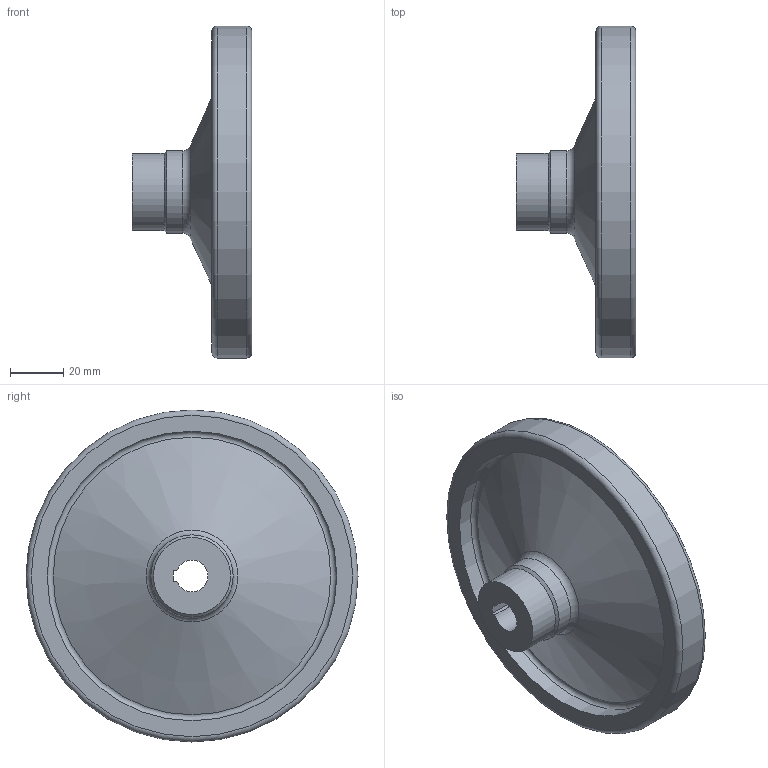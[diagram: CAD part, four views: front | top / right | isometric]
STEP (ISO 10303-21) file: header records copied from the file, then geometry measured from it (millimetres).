
FILE_DESCRIPTION( ( 'STEP AP203' ), '1' );
FILE_NAME( 'C:/Temp/Ganter_Step_05_03_2020/data/1_3/gn_321_5/gn_321_5_a/gn_321_5_a_zi/Safety handwheel GN 321.5-125-K12-A-ZI.stp', '2020-03-05T10:42:38', ( 'License CC BY-ND 4.0' ), ( 'CADENAS' ), ' ', 'PARTsolutions', ' ' );
FILE_SCHEMA( ( 'CONFIG_CONTROL_DESIGN' ) );
Length unit declared in the file: millimetre
Products named in the file (1): _Safety handwheel GN 321.5-125-K12-A-ZI
Bounding box: 45 x 125 x 125 mm (x, y, z)
Volume: 120085.4 mm3; surface area: 39505.9 mm2
Topology: 1 solids, 1 shells, 24 faces, 46 edges, 27 vertices
Faces by surface type: plane 8, cylinder 7, torus 5, cone 4
Full cylindrical faces by diameter (mm): 29 x2, 31 x1, 92 x1, 109 x1, 125 x1
Entity records: 576 total; most frequent: DIRECTION 102, CARTESIAN_POINT 83, ORIENTED_EDGE 62, AXIS2_PLACEMENT_3D 46, EDGE_LOOP 44, FACE_OUTER_BOUND 35, EDGE_CURVE 31, VERTEX_POINT 27
